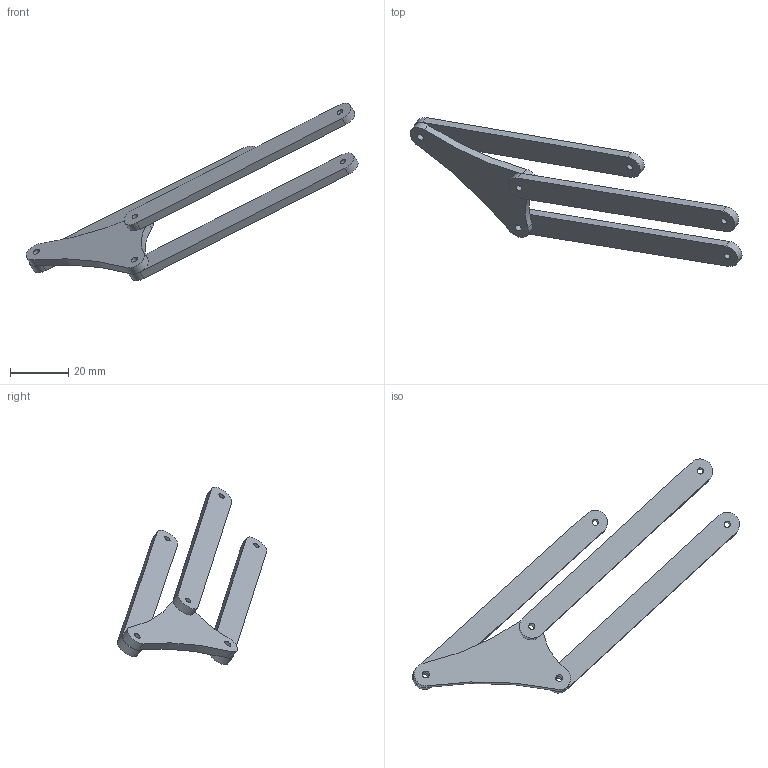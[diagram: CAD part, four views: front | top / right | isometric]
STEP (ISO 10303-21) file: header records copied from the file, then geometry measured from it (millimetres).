
FILE_DESCRIPTION(/* description */ ('STEP AP242 Edition 2','CAx-IF Rec.Pracs.---Representation and Presentation of Product Manufacturing Information (PMI)---4.0---2014-10-13','CAx-IF Rec.Pracs.---3D Tessellated Geometry---0.4---2014-09-14','2;1','CAx-IF Rec.Pracs.---User Defined Attributes---1.5---2016-08-15'),/* implementation_level */ '2;1');
FILE_NAME(/* name */ '6a04567de5928d538a9459cd',/* time_stamp */ '2026-05-13T10:46:21Z',/* author */ (''),/* organization */ (''),/* preprocessor_version */ 'ST-DEVELOPER v20',/* originating_system */ 'ONSHAPE BY PTC INC, 1.214',/* authorisation */ ' ');
FILE_SCHEMA (('AP242_MANAGED_MODEL_BASED_3D_ENGINEERING_MIM_LF { 1 0 10303 442 3 1 4 }'));
Length unit declared in the file: metre
Products named in the file (3): Assembly 1; Strut_Straight8084; Connector_Elbow214046
Assembly tree (4 placements, depth 2):
  Assembly 1
    Strut_Straight8084  x3
    Connector_Elbow214046
Bounding box: 114.26 x 51.37 x 61.01 mm (x, y, z)
Volume: 8637 mm3; surface area: 8021.7 mm2
Topology: 4 solids, 4 shells, 35 faces, 81 edges, 54 vertices
Faces by surface type: cylinder 18, plane 14, bspline 3
Full cylindrical faces by diameter (mm): 2.15 x6, 2.4 x3
Entity records: 650 total; most frequent: CARTESIAN_POINT 127, DIRECTION 96, ORIENTED_EDGE 80, AXIS2_PLACEMENT_3D 41, EDGE_CURVE 40, EDGE_LOOP 34, FACE_BOUND 34, VERTEX_POINT 30
